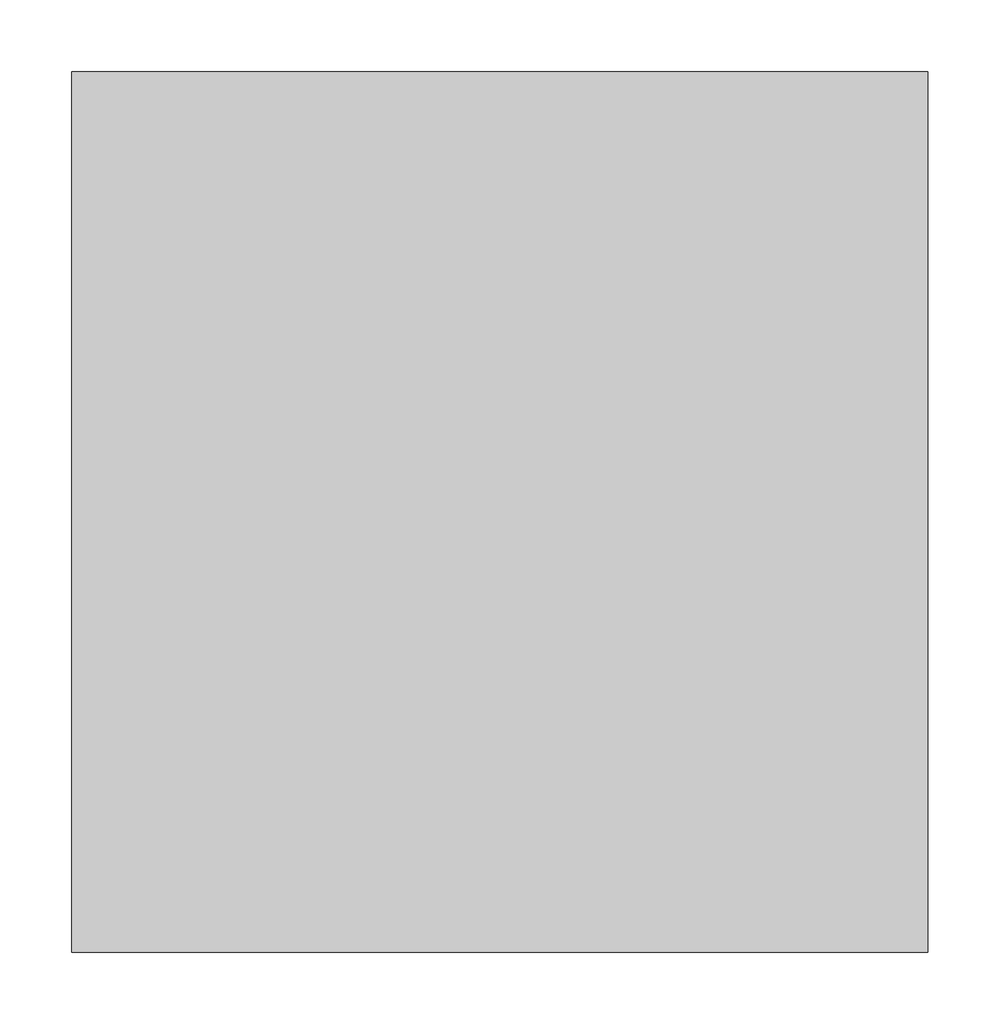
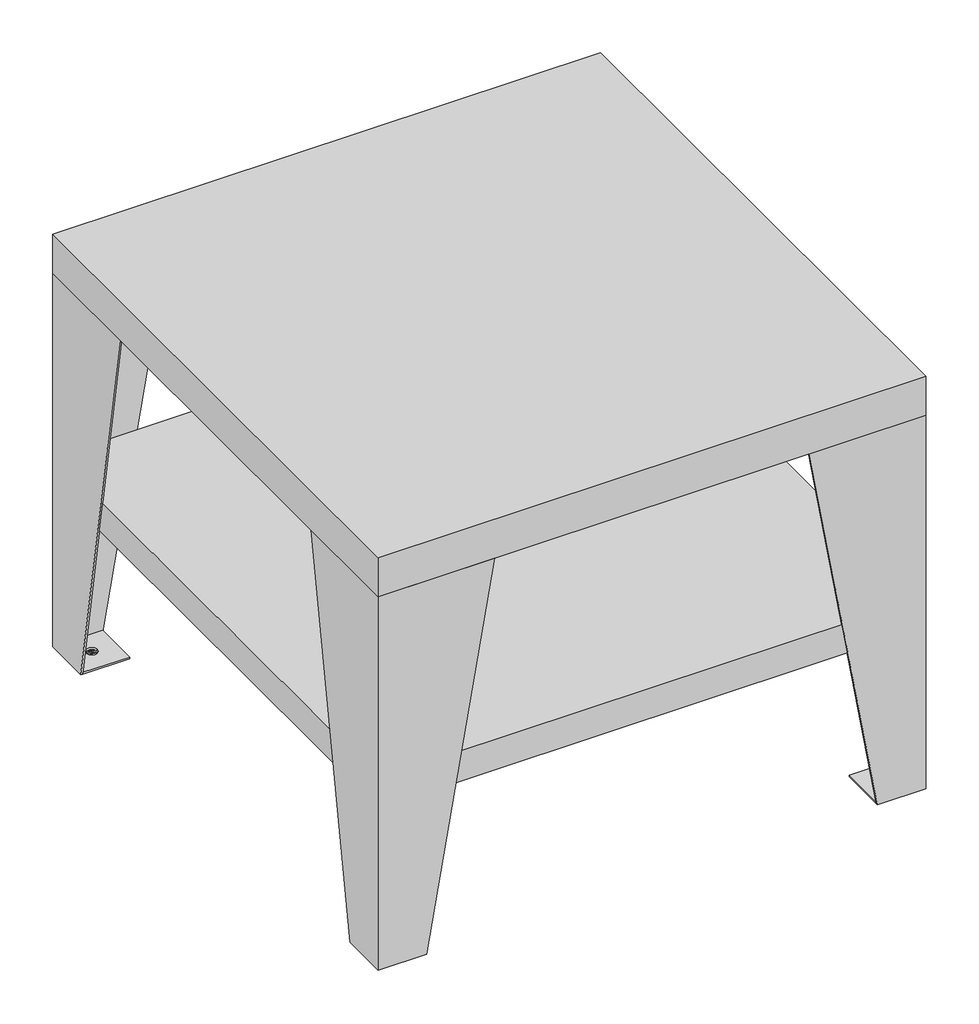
# Not in any storey: 1 proxy.
"""IFC4 building model written with IfcOpenShell, lengths in millimetres."""

from ifc_helpers import new_model, si_unit, origin, place, context, project, spatial, transform, mapped, element, save
from components import specialty_equipment_39cfdf50

model = new_model("IFC4")

# Units and contexts
model_context = context("Model", 3, world=origin())
ifc_project = project(units=[si_unit("LENGTHUNIT", "METRE", prefix="MILLI")], contexts=[model_context])

# Site, building
site = spatial("IfcSite", under=ifc_project)
building = spatial("IfcBuilding", under=site)

# Proxy
placement = place(None, origin())
specialty_equipment_shape = specialty_equipment_39cfdf50(model_context)
element("IfcBuildingElementProxy", 1, Name="11776600_D_APCL087_IG : 59590087_D_11776600_APCL087_IG", ObjectType="11776600_D_APCL087_IG : 59590087_D_11776600_APCL087_IG", at=placement, inside=building, context=model_context, shape_type="MappedRepresentation", body=[
    mapped(specialty_equipment_shape, transform((0.0, 0.0, 0.0), x_axis=(1.0, 0.0, 0.0), y_axis=(0.0, 1.0, 0.0), z_axis=(0.0, 0.0, 1.0))),
])

save(model, "model.ifc")
